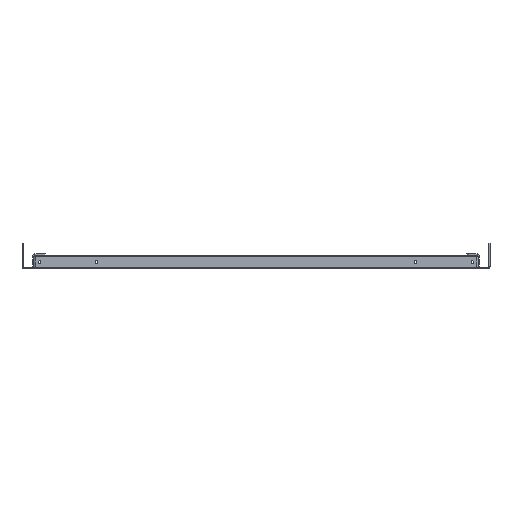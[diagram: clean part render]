
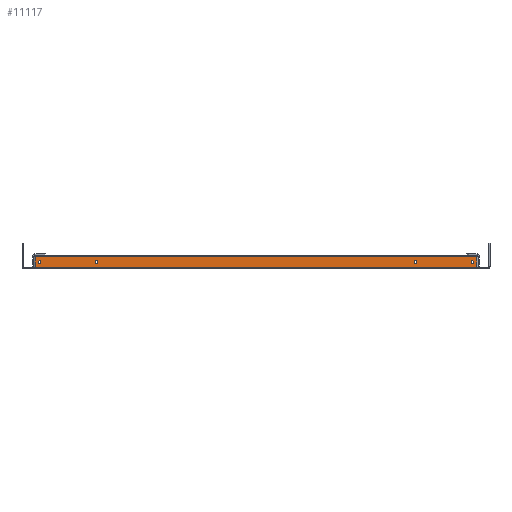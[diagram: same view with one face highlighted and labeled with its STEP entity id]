
A CAD part, front view. The second image highlights one B-rep face of the part: STEP entity #11117.
In plain terms, the highlighted planar face has unit normal (0, -1, 0).
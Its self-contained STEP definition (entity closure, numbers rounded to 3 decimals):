
#162 = CARTESIAN_POINT ( 'NONE',  ( -233.5, -225., 10. ) ) ;
#169 = DIRECTION ( 'NONE',  ( 0., 1., 0. ) ) ;
#170 = DIRECTION ( 'NONE',  ( -1., 0., 0. ) ) ;
#186 = CARTESIAN_POINT ( 'NONE',  ( -316.5, -225., 10. ) ) ;
#193 = DIRECTION ( 'NONE',  ( 0., 1., 0. ) ) ;
#194 = DIRECTION ( 'NONE',  ( -1., 0., 0. ) ) ;
#210 = CARTESIAN_POINT ( 'NONE',  ( 233.5, -225., 10. ) ) ;
#217 = DIRECTION ( 'NONE',  ( 0., 1., 0. ) ) ;
#218 = DIRECTION ( 'NONE',  ( -1., 0., 0. ) ) ;
#234 = CARTESIAN_POINT ( 'NONE',  ( 316.5, -225., 10. ) ) ;
#241 = DIRECTION ( 'NONE',  ( 0., 1., 0. ) ) ;
#242 = DIRECTION ( 'NONE',  ( -1., 0., 0. ) ) ;
#559 = LINE ( 'NONE', #560, #12177 ) ;
#560 = CARTESIAN_POINT ( 'NONE',  ( 323., -225., 20. ) ) ;
#561 = DIRECTION ( 'NONE',  ( 0., 0., 1. ) ) ;
#573 = CARTESIAN_POINT ( 'NONE',  ( -316.5, -225., 10. ) ) ;
#574 = DIRECTION ( 'NONE',  ( 0., 1., 0. ) ) ;
#575 = DIRECTION ( 'NONE',  ( -1., 0., 0. ) ) ;
#586 = LINE ( 'NONE', #587, #12165 ) ;
#587 = CARTESIAN_POINT ( 'NONE',  ( -325., -225., 18. ) ) ;
#588 = DIRECTION ( 'NONE',  ( -1., 0., 0. ) ) ;
#595 = LINE ( 'NONE', #596, #12162 ) ;
#596 = CARTESIAN_POINT ( 'NONE',  ( 325., -225., 2. ) ) ;
#597 = DIRECTION ( 'NONE',  ( 1., 0., 0. ) ) ;
#603 = CARTESIAN_POINT ( 'NONE',  ( -233.5, -225., 10. ) ) ;
#604 = DIRECTION ( 'NONE',  ( 0., 1., 0. ) ) ;
#605 = DIRECTION ( 'NONE',  ( -1., 0., 0. ) ) ;
#609 = CARTESIAN_POINT ( 'NONE',  ( 316.5, -225., 10. ) ) ;
#610 = LINE ( 'NONE', #611, #12157 ) ;
#611 = CARTESIAN_POINT ( 'NONE',  ( -323., -225., 20. ) ) ;
#612 = DIRECTION ( 'NONE',  ( 0., 0., -1. ) ) ;
#616 = DIRECTION ( 'NONE',  ( 0., 1., 0. ) ) ;
#617 = DIRECTION ( 'NONE',  ( -1., 0., 0. ) ) ;
#618 = CARTESIAN_POINT ( 'NONE',  ( 233.5, -225., 10. ) ) ;
#622 = DIRECTION ( 'NONE',  ( 0., 1., 0. ) ) ;
#623 = DIRECTION ( 'NONE',  ( -1., 0., 0. ) ) ;
#1365 = PLANE ( 'NONE',  #2270 ) ;
#1366 = CARTESIAN_POINT ( 'NONE',  ( 325., -225., 20. ) ) ;
#1367 = DIRECTION ( 'NONE',  ( 0., 1., 0. ) ) ;
#1368 = DIRECTION ( 'NONE',  ( -1., 0., 0. ) ) ;
#2233 = FACE_OUTER_BOUND ( 'NONE', #4126, .T. ) ;
#2237 = FACE_BOUND ( 'NONE', #4125, .T. ) ;
#2245 = FACE_BOUND ( 'NONE', #4124, .T. ) ;
#2260 = FACE_BOUND ( 'NONE', #4122, .T. ) ;
#2265 = FACE_BOUND ( 'NONE', #4123, .T. ) ;
#2270 = AXIS2_PLACEMENT_3D ( 'NONE', #1366, #1367, #1368 ) ;
#3583 = VERTEX_POINT ( 'NONE', #7663 ) ;
#3584 = VERTEX_POINT ( 'NONE', #7664 ) ;
#3591 = VERTEX_POINT ( 'NONE', #7671 ) ;
#3592 = VERTEX_POINT ( 'NONE', #7672 ) ;
#3599 = VERTEX_POINT ( 'NONE', #7679 ) ;
#3600 = VERTEX_POINT ( 'NONE', #7680 ) ;
#3607 = VERTEX_POINT ( 'NONE', #7687 ) ;
#3608 = VERTEX_POINT ( 'NONE', #7688 ) ;
#3719 = VERTEX_POINT ( 'NONE', #7799 ) ;
#3720 = VERTEX_POINT ( 'NONE', #7800 ) ;
#3721 = VERTEX_POINT ( 'NONE', #7801 ) ;
#3722 = VERTEX_POINT ( 'NONE', #7802 ) ;
#4122 = EDGE_LOOP ( 'NONE', ( #6213, #6239 ) ) ;
#4123 = EDGE_LOOP ( 'NONE', ( #6266, #6251 ) ) ;
#4124 = EDGE_LOOP ( 'NONE', ( #6232, #6241 ) ) ;
#4125 = EDGE_LOOP ( 'NONE', ( #6253, #6217 ) ) ;
#4126 = EDGE_LOOP ( 'NONE', ( #6240, #6255, #6256, #6258 ) ) ;
#5806 = CIRCLE ( 'NONE', #12166, 1.8 ) ;
#5809 = CIRCLE ( 'NONE', #12159, 1.8 ) ;
#5810 = CIRCLE ( 'NONE', #12161, 1.8 ) ;
#5814 = CIRCLE ( 'NONE', #12187, 1.8 ) ;
#5844 = CIRCLE ( 'NONE', #12412, 1.8 ) ;
#5849 = CIRCLE ( 'NONE', #12403, 1.8 ) ;
#5914 = CIRCLE ( 'NONE', #12395, 1.8 ) ;
#5919 = CIRCLE ( 'NONE', #12387, 1.8 ) ;
#6213 = ORIENTED_EDGE ( 'NONE', *, *, #11467, .T. ) ;
#6217 = ORIENTED_EDGE ( 'NONE', *, *, #11346, .T. ) ;
#6232 = ORIENTED_EDGE ( 'NONE', *, *, #11473, .T. ) ;
#6239 = ORIENTED_EDGE ( 'NONE', *, *, #11322, .T. ) ;
#6240 = ORIENTED_EDGE ( 'NONE', *, *, #11452, .T. ) ;
#6241 = ORIENTED_EDGE ( 'NONE', *, *, #11338, .T. ) ;
#6251 = ORIENTED_EDGE ( 'NONE', *, *, #11330, .T. ) ;
#6253 = ORIENTED_EDGE ( 'NONE', *, *, #11471, .T. ) ;
#6255 = ORIENTED_EDGE ( 'NONE', *, *, #11461, .T. ) ;
#6256 = ORIENTED_EDGE ( 'NONE', *, *, #11469, .T. ) ;
#6258 = ORIENTED_EDGE ( 'NONE', *, *, #11464, .T. ) ;
#6266 = ORIENTED_EDGE ( 'NONE', *, *, #11457, .T. ) ;
#7663 = CARTESIAN_POINT ( 'NONE',  ( -231.7, -225., 10. ) ) ;
#7664 = CARTESIAN_POINT ( 'NONE',  ( -235.3, -225., 10. ) ) ;
#7671 = CARTESIAN_POINT ( 'NONE',  ( -314.7, -225., 10. ) ) ;
#7672 = CARTESIAN_POINT ( 'NONE',  ( -318.3, -225., 10. ) ) ;
#7679 = CARTESIAN_POINT ( 'NONE',  ( 235.3, -225., 10. ) ) ;
#7680 = CARTESIAN_POINT ( 'NONE',  ( 231.7, -225., 10. ) ) ;
#7687 = CARTESIAN_POINT ( 'NONE',  ( 318.3, -225., 10. ) ) ;
#7688 = CARTESIAN_POINT ( 'NONE',  ( 314.7, -225., 10. ) ) ;
#7799 = CARTESIAN_POINT ( 'NONE',  ( 323., -225., 2. ) ) ;
#7800 = CARTESIAN_POINT ( 'NONE',  ( 323., -225., 18. ) ) ;
#7801 = CARTESIAN_POINT ( 'NONE',  ( -323., -225., 18. ) ) ;
#7802 = CARTESIAN_POINT ( 'NONE',  ( -323., -225., 2. ) ) ;
#11117 = ADVANCED_FACE ( 'NONE', ( #2260, #2265, #2245, #2237, #2233 ), #1365, .F. ) ;
#11322 = EDGE_CURVE ( 'NONE', #3583, #3584, #5844, .T. ) ;
#11330 = EDGE_CURVE ( 'NONE', #3591, #3592, #5849, .T. ) ;
#11338 = EDGE_CURVE ( 'NONE', #3599, #3600, #5914, .T. ) ;
#11346 = EDGE_CURVE ( 'NONE', #3607, #3608, #5919, .T. ) ;
#11452 = EDGE_CURVE ( 'NONE', #3719, #3720, #559, .T. ) ;
#11457 = EDGE_CURVE ( 'NONE', #3592, #3591, #5814, .T. ) ;
#11461 = EDGE_CURVE ( 'NONE', #3720, #3721, #586, .T. ) ;
#11464 = EDGE_CURVE ( 'NONE', #3722, #3719, #595, .T. ) ;
#11467 = EDGE_CURVE ( 'NONE', #3584, #3583, #5806, .T. ) ;
#11469 = EDGE_CURVE ( 'NONE', #3721, #3722, #610, .T. ) ;
#11471 = EDGE_CURVE ( 'NONE', #3608, #3607, #5810, .T. ) ;
#11473 = EDGE_CURVE ( 'NONE', #3600, #3599, #5809, .T. ) ;
#12157 = VECTOR ( 'NONE', #612, 1000. ) ;
#12159 = AXIS2_PLACEMENT_3D ( 'NONE', #618, #622, #623 ) ;
#12161 = AXIS2_PLACEMENT_3D ( 'NONE', #609, #616, #617 ) ;
#12162 = VECTOR ( 'NONE', #597, 1000. ) ;
#12165 = VECTOR ( 'NONE', #588, 1000. ) ;
#12166 = AXIS2_PLACEMENT_3D ( 'NONE', #603, #604, #605 ) ;
#12177 = VECTOR ( 'NONE', #561, 1000. ) ;
#12187 = AXIS2_PLACEMENT_3D ( 'NONE', #573, #574, #575 ) ;
#12387 = AXIS2_PLACEMENT_3D ( 'NONE', #234, #241, #242 ) ;
#12395 = AXIS2_PLACEMENT_3D ( 'NONE', #210, #217, #218 ) ;
#12403 = AXIS2_PLACEMENT_3D ( 'NONE', #186, #193, #194 ) ;
#12412 = AXIS2_PLACEMENT_3D ( 'NONE', #162, #169, #170 ) ;
